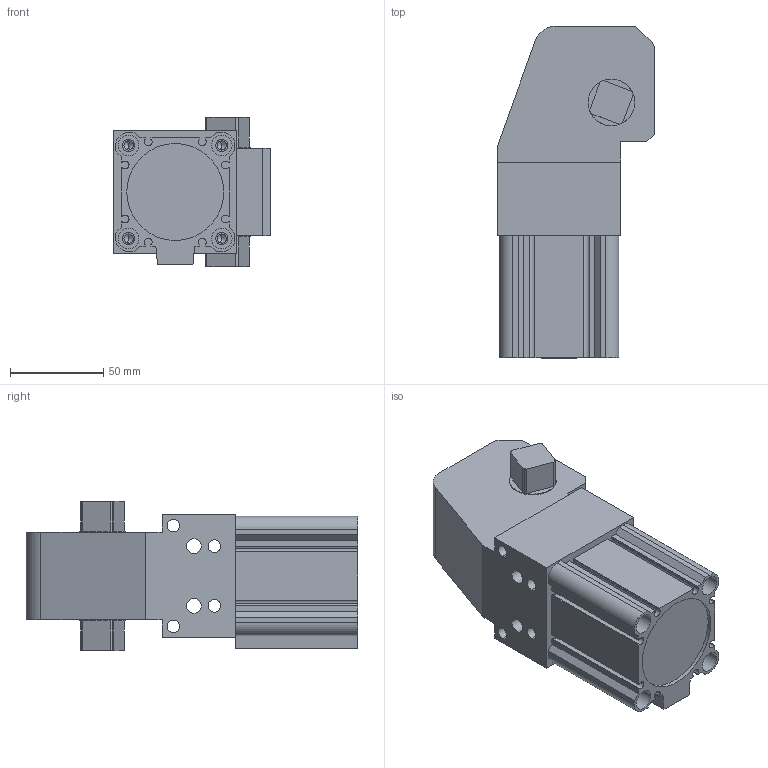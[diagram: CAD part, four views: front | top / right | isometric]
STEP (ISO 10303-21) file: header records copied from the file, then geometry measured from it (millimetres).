
FILE_DESCRIPTION (( 'STEP AP203' ), '1' );
FILE_NAME ('BC-50-S-24.STEP', '2017-02-15T11:15:15', ( '' ), ( '' ), 'SwSTEP 2.0', 'SolidWorks 2012', '' );
FILE_SCHEMA (( 'CONFIG_CONTROL_DESIGN' ));
Length unit declared in the file: millimetre
Products named in the file (4): BC-50-S-24; S-50-25; BC50S-2; BC50S-1
Assembly tree (3 placements, depth 2):
  BC-50-S-24
    BC50S-1
    BC50S-2
    S-50-25
Bounding box: 84 x 178 x 80 mm (x, y, z)
Volume: 558008.8 mm3; surface area: 102806.2 mm2
Topology: 3 solids, 3 shells, 205 faces, 532 edges, 344 vertices
Faces by surface type: plane 98, cylinder 95, cone 12
Entity records: 6822 total; most frequent: CARTESIAN_POINT 1215, DIRECTION 1132, ORIENTED_EDGE 1048, EDGE_CURVE 524, AXIS2_PLACEMENT_3D 405, VERTEX_POINT 344, LINE 322, VECTOR 322
